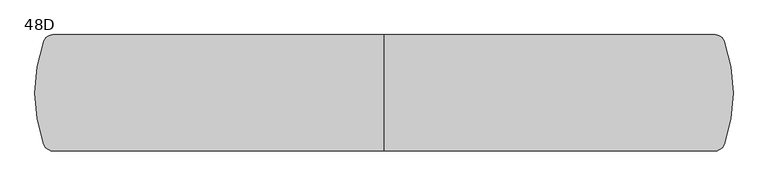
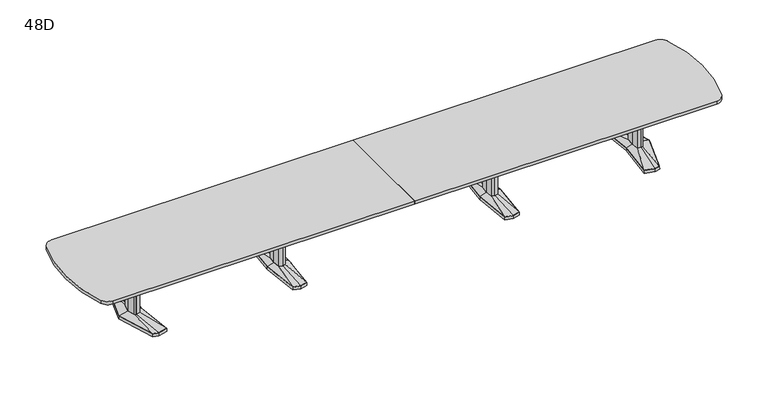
"""IFC4 building model written with IfcOpenShell, lengths in millimetres: furniture geometry, Coalesse_AM_Table_Conference_ETable2_SoftRadiused_24ft_AluminiumBase : 48D."""

from ifc_helpers import new_model, si_unit, point, frame, frame_2d, origin, place, context, project, spatial, polyline, circle_curve, trimmed, segment, composite_curve, outline, extrude, faceted_brep, source, transform, mapped, element, save
from ifc_brep_helpers import plane_surface, spline_surface, advanced_brep


def furniture_48d_ad6c0e78(model_context):
    return source(origin(), model_context, "Body", "SolidModel", [
        faceted_brep([(2852.8994335, 455.5848221, 38.1), (2743.3218777, 426.2263816, 38.1), (2784.4851217, 0.0, 38.1), (2743.3218777, -426.2263816, 38.1), (2852.8994335, -455.5848221, 38.1), (2909.0257896, -440.5478297, 38.1), (3046.3371769, 0.0, 38.1), (2909.0257896, 440.5478297, 38.1), (2852.8994254, 457.2283104, 3.175), (2910.2811972, 441.8549756, 3.175), (3048.0, 0.0, 3.175), (2910.2811972, -441.8549756, 3.175), (2852.8994254, -457.2283104, 3.175), (2741.6125, -427.4118891, 3.175), (2782.8902356, 0.0, 3.175), (2741.6125, 427.4118891, 3.175), (2856.488865, 428.3273875, 3.175), (2751.4405728, 402.1057253, 3.175), (2759.559268, 377.985069, 3.175), (2860.0782966, 401.0699529, 3.175), (2910.6379225, 387.524361, 3.175), (2909.8318561, 414.0360954, 3.175), (2856.488865, -428.3273875, 3.175), (2909.8318561, -414.0360954, 3.175), (2910.6379225, -387.524361, 3.175), (2860.0782966, -401.0699529, 3.175), (2759.559268, -377.985069, 3.175), (2751.4405728, -402.1057253, 3.175), (2983.0841121, 0.0, 3.175), (2950.8147111, 120.4193755, 3.175), (2902.1674722, 133.471665, 3.175), (2822.2868026, 119.4176561, 3.175), (2811.1555966, 0.0, 3.175), (2822.2868026, -119.4176561, 3.175), (2902.1674722, -133.471665, 3.175), (2950.8147111, -120.4193755, 3.175), (2856.488865, 428.3273875, 0.0), (2909.8318561, 414.0360954, 0.0), (2910.6379225, 387.524361, 0.0), (2860.0782966, 401.0699529, 0.0), (2759.559268, 377.985069, 0.0), (2751.4405728, 402.1057253, 0.0), (2856.488865, -428.3273875, 0.0), (2751.4405728, -402.1057253, 0.0), (2759.559268, -377.985069, 0.0), (2860.0782966, -401.0699529, 0.0), (2910.6379225, -387.524361, 0.0), (2909.8318561, -414.0360954, 0.0), (2983.0841121, 0.0, 0.0), (2950.8147111, -120.4193755, 0.0), (2902.1674722, -133.471665, 0.0), (2822.2868026, -119.4176561, 0.0), (2811.1555966, 0.0, 0.0), (2822.2868026, 119.4176561, 0.0), (2902.1674722, 133.471665, 0.0), (2950.8147111, 120.4193755, 0.0)], [[[0, 1, 2, 3, 4, 5, 6, 7]], [[8, 9, 10, 11, 12, 13, 14, 15], [16, 17, 18, 19, 20, 21], [22, 23, 24, 25, 26, 27], [28, 29, 30, 31, 32, 33, 34, 35]], [[7, 9, 8, 0]], [[6, 10, 9, 7]], [[5, 11, 10, 6]], [[4, 12, 11, 5]], [[3, 13, 12, 4]], [[2, 14, 13, 3]], [[1, 15, 14, 2]], [[0, 8, 15, 1]], [[36, 37, 38, 39, 40, 41]], [[42, 43, 44, 45, 46, 47]], [[48, 49, 50, 51, 52, 53, 54, 55]], [[36, 16, 21, 37]], [[37, 21, 20, 38]], [[38, 20, 19, 39]], [[39, 19, 18, 40]], [[40, 18, 17, 41]], [[41, 17, 16, 36]], [[42, 22, 27, 43]], [[43, 27, 26, 44]], [[44, 26, 25, 45]], [[45, 25, 24, 46]], [[46, 24, 23, 47]], [[47, 23, 22, 42]], [[48, 28, 35, 49]], [[49, 35, 34, 50]], [[50, 34, 33, 51]], [[51, 33, 32, 52]], [[52, 32, 31, 53]], [[53, 31, 30, 54]], [[54, 30, 29, 55]], [[55, 29, 28, 48]]]),
        faceted_brep([(2943.6398336, 0.0, 698.5), (2919.7046046, 89.3188359, 698.5), (2902.8512484, 93.8406728, 698.5), (2900.4514011, 94.4845635, 698.5), (2857.523896, 86.9320037, 698.5), (2849.4207556, 0.0, 698.5), (2857.523896, -86.9320037, 698.5), (2900.4514011, -94.4845635, 698.5), (2902.8512484, -93.8406728, 698.5), (2919.7046046, -89.3188359, 698.5), (2943.6398336, 0.0, 63.5), (2919.7046046, -89.3188359, 63.5), (2902.8512484, -93.8406728, 63.5), (2900.4514011, -94.4845635, 63.5), (2857.523896, -86.9320037, 63.5), (2849.4207556, 0.0, 63.5), (2857.523896, 86.9320037, 63.5), (2900.4514011, 94.4845635, 63.5), (2902.8512484, 93.8406728, 63.5), (2919.7046046, 89.3188359, 63.5)], [[[0, 1, 2, 3, 4, 5, 6, 7, 8, 9]], [[10, 11, 12, 13, 14, 15, 16, 17, 18, 19]], [[9, 11, 10, 0]], [[8, 12, 11, 9]], [[7, 13, 12, 8]], [[6, 14, 13, 7]], [[5, 15, 14, 6]], [[4, 16, 15, 5]], [[3, 17, 16, 4]], [[2, 18, 17, 3]], [[1, 19, 18, 2]], [[0, 10, 19, 1]]]),
        advanced_brep(
        [(2900.4514011, 94.4845635, 63.5), (2857.523896, 86.9320037, 63.5), (2849.4207556, 0.0, 63.5), (2857.523896, -86.9320037, 63.5), (2900.4514011, -94.4845635, 63.5), (2919.7046046, -89.3188359, 63.5), (2943.6398336, 0.0, 63.5), (2919.7046046, 89.3188359, 63.5), (2852.8994335, 455.5848221, 38.1), (2909.0257896, 440.5478297, 38.1), (3046.3371769, 0.0, 38.1), (2909.0257896, -440.5478297, 38.1), (2852.8994335, -455.5848221, 38.1), (2743.3218777, -426.2263816, 38.1), (2784.4851217, 0.0, 38.1), (2743.3218777, 426.2263816, 38.1)],
        [
            (0, 1),
            (1, 2),
            (2, 3),
            (3, 4),
            (4, 5),
            (5, 6),
            (6, 7),
            (7, 0),
            (8, 9),
            (9, 10),
            (10, 11),
            (11, 12),
            (12, 13),
            (13, 14),
            (14, 15),
            (15, 8),
            (8, 0),
            (7, 9),
            (6, 10),
            (5, 11),
            (4, 12),
            (3, 13),
            (2, 14),
            (1, 15),
        ],
        [
            plane_surface(frame((2893.5525491, 0.0, 63.5), z_axis=(0.0, 0.0, 1.0), x_axis=(-0.25884244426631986, -0.9659195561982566, 0.0))),
            plane_surface(frame((2855.1645625, 0.0, 38.1), z_axis=(0.0, 0.0, -1.0), x_axis=(-0.25884244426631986, -0.9659195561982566, 0.0))),
            spline_surface(1, 1, [[(2852.8994335, 455.5848221, 38.1), (2909.0257896, 440.5478297, 38.1)], [(2900.4514011, 94.4845635, 63.5), (2919.7046046, 89.3188359, 63.5)]], [2, 2], [2, 2], [0.0, 1.0], [0.0, 1.0]),
            spline_surface(1, 1, [[(2909.0257896, 440.5478297, 38.1), (3046.3371769, 0.0, 38.1)], [(2919.7046046, 89.3188359, 63.5), (2943.6398336, 0.0, 63.5)]], [2, 2], [2, 2], [0.0, 1.0], [0.0, 1.0]),
            spline_surface(1, 1, [[(3046.3371769, 0.0, 38.1), (2909.0257896, -440.5478297, 38.1)], [(2943.6398336, 0.0, 63.5), (2919.7046046, -89.3188359, 63.5)]], [2, 2], [2, 2], [0.0, 1.0], [0.0, 1.0]),
            spline_surface(1, 1, [[(2909.0257896, -440.5478297, 38.1), (2852.8994335, -455.5848221, 38.1)], [(2919.7046046, -89.3188359, 63.5), (2900.4514011, -94.4845635, 63.5)]], [2, 2], [2, 2], [0.0, 1.0], [0.0, 1.0]),
            spline_surface(1, 1, [[(2852.8994335, -455.5848221, 38.1), (2743.3218777, -426.2263816, 38.1)], [(2900.4514011, -94.4845635, 63.5), (2857.523896, -86.9320037, 63.5)]], [2, 2], [2, 2], [0.0, 1.0], [0.0, 1.0]),
            spline_surface(1, 1, [[(2743.3218777, -426.2263816, 38.1), (2784.4851217, 0.0, 38.1)], [(2857.523896, -86.9320037, 63.5), (2849.4207556, 0.0, 63.5)]], [2, 2], [2, 2], [0.0, 1.0], [0.0, 1.0]),
            spline_surface(1, 1, [[(2784.4851217, 0.0, 38.1), (2743.3218777, 426.2263816, 38.1)], [(2849.4207556, 0.0, 63.5), (2857.523896, 86.9320037, 63.5)]], [2, 2], [2, 2], [0.0, 1.0], [0.0, 1.0]),
            spline_surface(1, 1, [[(2743.3218777, 426.2263816, 38.1), (2852.8994335, 455.5848221, 38.1)], [(2857.523896, 86.9320037, 63.5), (2900.4514011, 94.4845635, 63.5)]], [2, 2], [2, 2], [0.0, 1.0], [0.0, 1.0]),
        ],
        [
            (0, [[1, 2, 3, 4, 5, 6, 7, 8]]),
            (1, [[9, 10, 11, 12, 13, 14, 15, 16]]),
            (2, [[17, -8, 18, -9]]),
            (3, [[-18, -7, 19, -10]]),
            (4, [[-19, -6, 20, -11]]),
            (5, [[-20, -5, 21, -12]]),
            (6, [[-21, -4, 22, -13]]),
            (7, [[-22, -3, 23, -14]]),
            (8, [[-23, -2, 24, -15]]),
            (9, [[-24, -1, -17, -16]]),
        ],
    ),
        faceted_brep([(-2852.8994335, 455.5848221, 38.1), (-2909.0257896, 440.5478297, 38.1), (-3046.3371769, 0.0, 38.1), (-2909.0257896, -440.5478297, 38.1), (-2852.8994335, -455.5848221, 38.1), (-2743.3218777, -426.2263816, 38.1), (-2784.4851217, 0.0, 38.1), (-2743.3218777, 426.2263816, 38.1), (-2852.8994254, 457.2283104, 3.175), (-2741.6125, 427.4118891, 3.175), (-2782.8902356, 0.0, 3.175), (-2741.6125, -427.4118891, 3.175), (-2852.8994254, -457.2283104, 3.175), (-2910.2811972, -441.8549756, 3.175), (-3048.0, 0.0, 3.175), (-2910.2811972, 441.8549756, 3.175), (-2856.488865, 428.3273875, 3.175), (-2909.8318561, 414.0360954, 3.175), (-2910.6379225, 387.524361, 3.175), (-2860.0782966, 401.0699529, 3.175), (-2759.559268, 377.985069, 3.175), (-2751.4405728, 402.1057253, 3.175), (-2856.488865, -428.3273875, 3.175), (-2751.4405728, -402.1057253, 3.175), (-2759.559268, -377.985069, 3.175), (-2860.0782966, -401.0699529, 3.175), (-2910.6379225, -387.524361, 3.175), (-2909.8318561, -414.0360954, 3.175), (-2983.0841121, 0.0, 3.175), (-2950.8147111, -120.4193755, 3.175), (-2902.1674722, -133.471665, 3.175), (-2822.2868026, -119.4176561, 3.175), (-2811.1555966, 0.0, 3.175), (-2822.2868026, 119.4176561, 3.175), (-2902.1674722, 133.471665, 3.175), (-2950.8147111, 120.4193755, 3.175), (-2856.488865, 428.3273875, 0.0), (-2751.4405728, 402.1057253, 0.0), (-2759.559268, 377.985069, 0.0), (-2860.0782966, 401.0699529, 0.0), (-2910.6379225, 387.524361, 0.0), (-2909.8318561, 414.0360954, 0.0), (-2856.488865, -428.3273875, 0.0), (-2909.8318561, -414.0360954, 0.0), (-2910.6379225, -387.524361, 0.0), (-2860.0782966, -401.0699529, 0.0), (-2759.559268, -377.985069, 0.0), (-2751.4405728, -402.1057253, 0.0), (-2983.0841121, 0.0, 0.0), (-2950.8147111, 120.4193755, 0.0), (-2902.1674722, 133.471665, 0.0), (-2822.2868026, 119.4176561, 0.0), (-2811.1555966, 0.0, 0.0), (-2822.2868026, -119.4176561, 0.0), (-2902.1674722, -133.471665, 0.0), (-2950.8147111, -120.4193755, 0.0)], [[[0, 1, 2, 3, 4, 5, 6, 7]], [[8, 9, 10, 11, 12, 13, 14, 15], [16, 17, 18, 19, 20, 21], [22, 23, 24, 25, 26, 27], [28, 29, 30, 31, 32, 33, 34, 35]], [[1, 0, 8, 15]], [[2, 1, 15, 14]], [[3, 2, 14, 13]], [[4, 3, 13, 12]], [[5, 4, 12, 11]], [[6, 5, 11, 10]], [[7, 6, 10, 9]], [[0, 7, 9, 8]], [[36, 37, 38, 39, 40, 41]], [[42, 43, 44, 45, 46, 47]], [[48, 49, 50, 51, 52, 53, 54, 55]], [[36, 41, 17, 16]], [[41, 40, 18, 17]], [[40, 39, 19, 18]], [[39, 38, 20, 19]], [[38, 37, 21, 20]], [[37, 36, 16, 21]], [[42, 47, 23, 22]], [[47, 46, 24, 23]], [[46, 45, 25, 24]], [[45, 44, 26, 25]], [[44, 43, 27, 26]], [[43, 42, 22, 27]], [[48, 55, 29, 28]], [[55, 54, 30, 29]], [[54, 53, 31, 30]], [[53, 52, 32, 31]], [[52, 51, 33, 32]], [[51, 50, 34, 33]], [[50, 49, 35, 34]], [[49, 48, 28, 35]]]),
        faceted_brep([(-2943.6398336, 0.0, 698.5), (-2919.7046046, -89.3188359, 698.5), (-2902.8512484, -93.8406728, 698.5), (-2900.4514011, -94.4845635, 698.5), (-2857.523896, -86.9320037, 698.5), (-2849.4207556, 0.0, 698.5), (-2857.523896, 86.9320037, 698.5), (-2900.4514011, 94.4845635, 698.5), (-2902.8512484, 93.8406728, 698.5), (-2919.7046046, 89.3188359, 698.5), (-2943.6398336, 0.0, 63.5), (-2919.7046046, 89.3188359, 63.5), (-2902.8512484, 93.8406728, 63.5), (-2900.4514011, 94.4845635, 63.5), (-2857.523896, 86.9320037, 63.5), (-2849.4207556, 0.0, 63.5), (-2857.523896, -86.9320037, 63.5), (-2900.4514011, -94.4845635, 63.5), (-2902.8512484, -93.8406728, 63.5), (-2919.7046046, -89.3188359, 63.5)], [[[0, 1, 2, 3, 4, 5, 6, 7, 8, 9]], [[10, 11, 12, 13, 14, 15, 16, 17, 18, 19]], [[1, 0, 10, 19]], [[2, 1, 19, 18]], [[3, 2, 18, 17]], [[4, 3, 17, 16]], [[5, 4, 16, 15]], [[6, 5, 15, 14]], [[7, 6, 14, 13]], [[8, 7, 13, 12]], [[9, 8, 12, 11]], [[0, 9, 11, 10]]]),
        advanced_brep(
        [(-2900.4514011, 94.4845635, 63.5), (-2919.7046046, 89.3188359, 63.5), (-2943.6398336, 0.0, 63.5), (-2919.7046046, -89.3188359, 63.5), (-2900.4514011, -94.4845635, 63.5), (-2857.523896, -86.9320037, 63.5), (-2849.4207556, 0.0, 63.5), (-2857.523896, 86.9320037, 63.5), (-2852.8994335, 455.5848221, 38.1), (-2743.3218777, 426.2263816, 38.1), (-2784.4851217, 0.0, 38.1), (-2743.3218777, -426.2263816, 38.1), (-2852.8994335, -455.5848221, 38.1), (-2909.0257896, -440.5478297, 38.1), (-3046.3371769, 0.0, 38.1), (-2909.0257896, 440.5478297, 38.1)],
        [
            (0, 1),
            (1, 2),
            (2, 3),
            (3, 4),
            (4, 5),
            (5, 6),
            (6, 7),
            (7, 0),
            (8, 9),
            (9, 10),
            (10, 11),
            (11, 12),
            (12, 13),
            (13, 14),
            (14, 15),
            (15, 8),
            (15, 1),
            (0, 8),
            (14, 2),
            (13, 3),
            (12, 4),
            (11, 5),
            (10, 6),
            (9, 7),
        ],
        [
            plane_surface(frame((-2893.5525491, 0.0, 63.5), z_axis=(0.0, 0.0, 1.0), x_axis=(0.25884244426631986, -0.9659195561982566, 0.0))),
            plane_surface(frame((-2855.1645625, 0.0, 38.1), z_axis=(0.0, 0.0, -1.0), x_axis=(0.25884244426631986, -0.9659195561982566, 0.0))),
            spline_surface(1, 1, [[(-2852.8994335, 455.5848221, 38.1), (-2900.4514011, 94.4845635, 63.5)], [(-2909.0257896, 440.5478297, 38.1), (-2919.7046046, 89.3188359, 63.5)]], [2, 2], [2, 2], [0.0, 1.0], [0.0, 1.0]),
            spline_surface(1, 1, [[(-2909.0257896, 440.5478297, 38.1), (-2919.7046046, 89.3188359, 63.5)], [(-3046.3371769, 0.0, 38.1), (-2943.6398336, 0.0, 63.5)]], [2, 2], [2, 2], [0.0, 1.0], [0.0, 1.0]),
            spline_surface(1, 1, [[(-3046.3371769, 0.0, 38.1), (-2943.6398336, 0.0, 63.5)], [(-2909.0257896, -440.5478297, 38.1), (-2919.7046046, -89.3188359, 63.5)]], [2, 2], [2, 2], [0.0, 1.0], [0.0, 1.0]),
            spline_surface(1, 1, [[(-2909.0257896, -440.5478297, 38.1), (-2919.7046046, -89.3188359, 63.5)], [(-2852.8994335, -455.5848221, 38.1), (-2900.4514011, -94.4845635, 63.5)]], [2, 2], [2, 2], [0.0, 1.0], [0.0, 1.0]),
            spline_surface(1, 1, [[(-2852.8994335, -455.5848221, 38.1), (-2900.4514011, -94.4845635, 63.5)], [(-2743.3218777, -426.2263816, 38.1), (-2857.523896, -86.9320037, 63.5)]], [2, 2], [2, 2], [0.0, 1.0], [0.0, 1.0]),
            spline_surface(1, 1, [[(-2743.3218777, -426.2263816, 38.1), (-2857.523896, -86.9320037, 63.5)], [(-2784.4851217, 0.0, 38.1), (-2849.4207556, 0.0, 63.5)]], [2, 2], [2, 2], [0.0, 1.0], [0.0, 1.0]),
            spline_surface(1, 1, [[(-2784.4851217, 0.0, 38.1), (-2849.4207556, 0.0, 63.5)], [(-2743.3218777, 426.2263816, 38.1), (-2857.523896, 86.9320037, 63.5)]], [2, 2], [2, 2], [0.0, 1.0], [0.0, 1.0]),
            spline_surface(1, 1, [[(-2743.3218777, 426.2263816, 38.1), (-2857.523896, 86.9320037, 63.5)], [(-2852.8994335, 455.5848221, 38.1), (-2900.4514011, 94.4845635, 63.5)]], [2, 2], [2, 2], [0.0, 1.0], [0.0, 1.0]),
        ],
        [
            (0, [[1, 2, 3, 4, 5, 6, 7, 8]]),
            (1, [[9, 10, 11, 12, 13, 14, 15, 16]]),
            (2, [[-16, 17, -1, 18]]),
            (3, [[-15, 19, -2, -17]]),
            (4, [[-14, 20, -3, -19]]),
            (5, [[-13, 21, -4, -20]]),
            (6, [[-12, 22, -5, -21]]),
            (7, [[-11, 23, -6, -22]]),
            (8, [[-10, 24, -7, -23]]),
            (9, [[-9, -18, -8, -24]]),
        ],
    ),
        faceted_brep([(1137.9666209, -433.8053819, 38.1), (1219.2, -455.556576, 38.1), (1300.4333791, -433.8053819, 38.1), (1338.2564774, 0.0, 38.1), (1300.4333791, 433.8053819, 38.1), (1219.2, 455.556576, 38.1), (1137.9666209, 433.8053819, 38.1), (1100.1435226, 0.0, 38.1), (1136.4817205, -435.0512063, 3.175), (1098.55, 0.0, 3.175), (1136.4817205, 435.0512063, 3.175), (1219.2, 457.2, 3.175), (1301.9182795, 435.0512063, 3.175), (1339.85, 0.0, 3.175), (1301.9182795, -435.0512063, 3.175), (1219.2, -457.2, 3.175), (1219.2, 429.2617927, 3.175), (1141.2323194, 408.3850278, 3.175), (1144.4980179, 382.9646737, 3.175), (1219.2, 402.9670094, 3.175), (1293.9019821, 382.9646737, 3.175), (1297.1676806, 408.3850278, 3.175), (1219.2, -429.2617927, 3.175), (1297.1676806, -408.3850278, 3.175), (1293.9019821, -382.9646737, 3.175), (1219.2, -402.9670094, 3.175), (1144.4980179, -382.9646737, 3.175), (1141.2323194, -408.3850278, 3.175), (1147.3425738, 114.6326257, 3.175), (1136.6573924, 0.0, 3.175), (1147.3425738, -114.6326257, 3.175), (1219.2, -133.8761372, 3.175), (1291.0574262, -114.6326257, 3.175), (1301.7426076, 0.0, 3.175), (1291.0574262, 114.6326257, 3.175), (1219.2, 133.8761372, 3.175), (1219.2, 429.2617927, 0.0), (1297.1676806, 408.3850278, 0.0), (1293.9019821, 382.9646737, 0.0), (1219.2, 402.9670094, 0.0), (1144.4980179, 382.9646737, 0.0), (1141.2323194, 408.3850278, 0.0), (1219.2, -429.2617927, 0.0), (1141.2323194, -408.3850278, 0.0), (1144.4980179, -382.9646737, 0.0), (1219.2, -402.9670094, 0.0), (1293.9019821, -382.9646737, 0.0), (1297.1676806, -408.3850278, 0.0), (1147.3425738, 114.6326257, 0.0), (1219.2, 133.8761372, 0.0), (1291.0574262, 114.6326257, 0.0), (1301.7426076, 0.0, 0.0), (1291.0574262, -114.6326257, 0.0), (1219.2, -133.8761372, 0.0), (1147.3425738, -114.6326257, 0.0), (1136.6573924, 0.0, 0.0)], [[[0, 1, 2, 3, 4, 5, 6, 7]], [[8, 9, 10, 11, 12, 13, 14, 15], [16, 17, 18, 19, 20, 21], [22, 23, 24, 25, 26, 27], [28, 29, 30, 31, 32, 33, 34, 35]], [[1, 0, 8, 15]], [[2, 1, 15, 14]], [[3, 2, 14, 13]], [[4, 3, 13, 12]], [[5, 4, 12, 11]], [[6, 5, 11, 10]], [[7, 6, 10, 9]], [[0, 7, 9, 8]], [[36, 37, 38, 39, 40, 41]], [[42, 43, 44, 45, 46, 47]], [[48, 49, 50, 51, 52, 53, 54, 55]], [[36, 41, 17, 16]], [[41, 40, 18, 17]], [[40, 39, 19, 18]], [[39, 38, 20, 19]], [[38, 37, 21, 20]], [[37, 36, 16, 21]], [[42, 47, 23, 22]], [[47, 46, 24, 23]], [[46, 45, 25, 24]], [[45, 44, 26, 25]], [[44, 43, 27, 26]], [[43, 42, 22, 27]], [[48, 55, 29, 28]], [[55, 54, 30, 29]], [[54, 53, 31, 30]], [[53, 52, 32, 31]], [[52, 51, 33, 32]], [[51, 50, 34, 33]], [[50, 49, 35, 34]], [[49, 48, 28, 35]]]),
        faceted_brep([(1182.8167166, 84.6900825, 698.5), (1174.9225513, 0.0, 698.5), (1182.8167166, -84.6900825, 698.5), (1219.2, -94.4335728, 698.5), (1255.5832834, -84.6900825, 698.5), (1263.4774487, 0.0, 698.5), (1255.5832834, 84.6900825, 698.5), (1219.2, 94.4335728, 698.5), (1182.8167166, 84.6900825, 63.5), (1219.2, 94.4335728, 63.5), (1255.5832834, 84.6900825, 63.5), (1263.4774487, 0.0, 63.5), (1255.5832834, -84.6900825, 63.5), (1219.2, -94.4335728, 63.5), (1182.8167166, -84.6900825, 63.5), (1174.9225513, 0.0, 63.5)], [[[0, 1, 2, 3, 4, 5, 6, 7]], [[8, 9, 10, 11, 12, 13, 14, 15]], [[1, 0, 8, 15]], [[2, 1, 15, 14]], [[3, 2, 14, 13]], [[4, 3, 13, 12]], [[5, 4, 12, 11]], [[6, 5, 11, 10]], [[7, 6, 10, 9]], [[0, 7, 9, 8]]]),
        advanced_brep(
        [(1182.8167166, 84.6900825, 63.5), (1174.9225513, 0.0, 63.5), (1182.8167166, -84.6900825, 63.5), (1219.2, -94.4335728, 63.5), (1255.5832834, -84.6900825, 63.5), (1263.4774487, 0.0, 63.5), (1255.5832834, 84.6900825, 63.5), (1219.2, 94.4335728, 63.5), (1137.9666209, 433.8053819, 38.1), (1219.2, 455.556576, 38.1), (1300.4333791, 433.8053819, 38.1), (1338.2564774, 0.0, 38.1), (1300.4333791, -433.8053819, 38.1), (1219.2, -455.556576, 38.1), (1137.9666209, -433.8053819, 38.1), (1100.1435226, 0.0, 38.1)],
        [
            (0, 1),
            (1, 2),
            (2, 3),
            (3, 4),
            (4, 5),
            (5, 6),
            (6, 7),
            (7, 0),
            (8, 9),
            (9, 10),
            (10, 11),
            (11, 12),
            (12, 13),
            (13, 14),
            (14, 15),
            (15, 8),
            (15, 1),
            (0, 8),
            (14, 2),
            (13, 3),
            (12, 4),
            (11, 5),
            (10, 6),
            (9, 7),
        ],
        [
            plane_surface(frame((1219.2, 0.0, 63.5), z_axis=(0.0, 0.0, 1.0000000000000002), x_axis=(-0.9659615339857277, -0.25868574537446, 0.0))),
            plane_surface(frame((1219.2, 0.0, 38.1), z_axis=(0.0, 0.0, -1.0000000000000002), x_axis=(-0.9659615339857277, -0.25868574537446, 0.0))),
            spline_surface(1, 1, [[(1137.9666209, 433.8053819, 38.1), (1182.8167166, 84.6900825, 63.5)], [(1100.1435226, 0.0, 38.1), (1174.9225513, 0.0, 63.5)]], [2, 2], [2, 2], [0.0, 1.0], [0.0, 1.0]),
            spline_surface(1, 1, [[(1100.1435226, 0.0, 38.1), (1174.9225513, 0.0, 63.5)], [(1137.9666209, -433.8053819, 38.1), (1182.8167166, -84.6900825, 63.5)]], [2, 2], [2, 2], [0.0, 1.0], [0.0, 1.0]),
            spline_surface(1, 1, [[(1137.9666209, -433.8053819, 38.1), (1182.8167166, -84.6900825, 63.5)], [(1219.2, -455.556576, 38.1), (1219.2, -94.4335728, 63.5)]], [2, 2], [2, 2], [0.0, 1.0], [0.0, 1.0]),
            spline_surface(1, 1, [[(1219.2, -455.556576, 38.1), (1219.2, -94.4335728, 63.5)], [(1300.4333791, -433.8053819, 38.1), (1255.5832834, -84.6900825, 63.5)]], [2, 2], [2, 2], [0.0, 1.0], [0.0, 1.0]),
            spline_surface(1, 1, [[(1300.4333791, -433.8053819, 38.1), (1255.5832834, -84.6900825, 63.5)], [(1338.2564774, 0.0, 38.1), (1263.4774487, 0.0, 63.5)]], [2, 2], [2, 2], [0.0, 1.0], [0.0, 1.0]),
            spline_surface(1, 1, [[(1338.2564774, 0.0, 38.1), (1263.4774487, 0.0, 63.5)], [(1300.4333791, 433.8053819, 38.1), (1255.5832834, 84.6900825, 63.5)]], [2, 2], [2, 2], [0.0, 1.0], [0.0, 1.0]),
            spline_surface(1, 1, [[(1300.4333791, 433.8053819, 38.1), (1255.5832834, 84.6900825, 63.5)], [(1219.2, 455.556576, 38.1), (1219.2, 94.4335728, 63.5)]], [2, 2], [2, 2], [0.0, 1.0], [0.0, 1.0]),
            spline_surface(1, 1, [[(1219.2, 455.556576, 38.1), (1219.2, 94.4335728, 63.5)], [(1137.9666209, 433.8053819, 38.1), (1182.8167166, 84.6900825, 63.5)]], [2, 2], [2, 2], [0.0, 1.0], [0.0, 1.0]),
        ],
        [
            (0, [[1, 2, 3, 4, 5, 6, 7, 8]]),
            (1, [[9, 10, 11, 12, 13, 14, 15, 16]]),
            (2, [[-16, 17, -1, 18]]),
            (3, [[-15, 19, -2, -17]]),
            (4, [[-14, 20, -3, -19]]),
            (5, [[-13, 21, -4, -20]]),
            (6, [[-12, 22, -5, -21]]),
            (7, [[-11, 23, -6, -22]]),
            (8, [[-10, 24, -7, -23]]),
            (9, [[-9, -18, -8, -24]]),
        ],
    ),
        faceted_brep([(-1300.4333791, -433.8053819, 38.1), (-1219.2, -455.556576, 38.1), (-1137.9666209, -433.8053819, 38.1), (-1100.1435226, 0.0, 38.1), (-1137.9666209, 433.8053819, 38.1), (-1219.2, 455.556576, 38.1), (-1300.4333791, 433.8053819, 38.1), (-1338.2564774, 0.0, 38.1), (-1301.9182795, -435.0512063, 3.175), (-1339.85, 0.0, 3.175), (-1301.9182795, 435.0512063, 3.175), (-1219.2, 457.2, 3.175), (-1136.4817205, 435.0512063, 3.175), (-1098.55, 0.0, 3.175), (-1136.4817205, -435.0512063, 3.175), (-1219.2, -457.2, 3.175), (-1219.2, 429.2617927, 3.175), (-1297.1676806, 408.3850278, 3.175), (-1293.9019821, 382.9646737, 3.175), (-1219.2, 402.9670094, 3.175), (-1144.4980179, 382.9646737, 3.175), (-1141.2323194, 408.3850278, 3.175), (-1219.2, -429.2617927, 3.175), (-1141.2323194, -408.3850278, 3.175), (-1144.4980179, -382.9646737, 3.175), (-1219.2, -402.9670094, 3.175), (-1293.9019821, -382.9646737, 3.175), (-1297.1676806, -408.3850278, 3.175), (-1291.0574262, 114.6326257, 3.175), (-1301.7426076, 0.0, 3.175), (-1291.0574262, -114.6326257, 3.175), (-1219.2, -133.8761372, 3.175), (-1147.3425738, -114.6326257, 3.175), (-1136.6573924, 0.0, 3.175), (-1147.3425738, 114.6326257, 3.175), (-1219.2, 133.8761372, 3.175), (-1219.2, 429.2617927, 0.0), (-1141.2323194, 408.3850278, 0.0), (-1144.4980179, 382.9646737, 0.0), (-1219.2, 402.9670094, 0.0), (-1293.9019821, 382.9646737, 0.0), (-1297.1676806, 408.3850278, 0.0), (-1219.2, -429.2617927, 0.0), (-1297.1676806, -408.3850278, 0.0), (-1293.9019821, -382.9646737, 0.0), (-1219.2, -402.9670094, 0.0), (-1144.4980179, -382.9646737, 0.0), (-1141.2323194, -408.3850278, 0.0), (-1291.0574262, 114.6326257, 0.0), (-1219.2, 133.8761372, 0.0), (-1147.3425738, 114.6326257, 0.0), (-1136.6573924, 0.0, 0.0), (-1147.3425738, -114.6326257, 0.0), (-1219.2, -133.8761372, 0.0), (-1291.0574262, -114.6326257, 0.0), (-1301.7426076, 0.0, 0.0)], [[[0, 1, 2, 3, 4, 5, 6, 7]], [[8, 9, 10, 11, 12, 13, 14, 15], [16, 17, 18, 19, 20, 21], [22, 23, 24, 25, 26, 27], [28, 29, 30, 31, 32, 33, 34, 35]], [[1, 0, 8, 15]], [[2, 1, 15, 14]], [[3, 2, 14, 13]], [[4, 3, 13, 12]], [[5, 4, 12, 11]], [[6, 5, 11, 10]], [[7, 6, 10, 9]], [[0, 7, 9, 8]], [[36, 37, 38, 39, 40, 41]], [[42, 43, 44, 45, 46, 47]], [[48, 49, 50, 51, 52, 53, 54, 55]], [[36, 41, 17, 16]], [[41, 40, 18, 17]], [[40, 39, 19, 18]], [[39, 38, 20, 19]], [[38, 37, 21, 20]], [[37, 36, 16, 21]], [[42, 47, 23, 22]], [[47, 46, 24, 23]], [[46, 45, 25, 24]], [[45, 44, 26, 25]], [[44, 43, 27, 26]], [[43, 42, 22, 27]], [[48, 55, 29, 28]], [[55, 54, 30, 29]], [[54, 53, 31, 30]], [[53, 52, 32, 31]], [[52, 51, 33, 32]], [[51, 50, 34, 33]], [[50, 49, 35, 34]], [[49, 48, 28, 35]]]),
        faceted_brep([(-1255.5832834, 84.6900825, 698.5), (-1263.4774487, 0.0, 698.5), (-1255.5832834, -84.6900825, 698.5), (-1219.2, -94.4335728, 698.5), (-1182.8167166, -84.6900825, 698.5), (-1174.9225513, 0.0, 698.5), (-1182.8167166, 84.6900825, 698.5), (-1219.2, 94.4335728, 698.5), (-1255.5832834, 84.6900825, 63.5), (-1219.2, 94.4335728, 63.5), (-1182.8167166, 84.6900825, 63.5), (-1174.9225513, 0.0, 63.5), (-1182.8167166, -84.6900825, 63.5), (-1219.2, -94.4335728, 63.5), (-1255.5832834, -84.6900825, 63.5), (-1263.4774487, 0.0, 63.5)], [[[0, 1, 2, 3, 4, 5, 6, 7]], [[8, 9, 10, 11, 12, 13, 14, 15]], [[1, 0, 8, 15]], [[2, 1, 15, 14]], [[3, 2, 14, 13]], [[4, 3, 13, 12]], [[5, 4, 12, 11]], [[6, 5, 11, 10]], [[7, 6, 10, 9]], [[0, 7, 9, 8]]]),
        advanced_brep(
        [(-1255.5832834, 84.6900825, 63.5), (-1263.4774487, 0.0, 63.5), (-1255.5832834, -84.6900825, 63.5), (-1219.2, -94.4335728, 63.5), (-1182.8167166, -84.6900825, 63.5), (-1174.9225513, 0.0, 63.5), (-1182.8167166, 84.6900825, 63.5), (-1219.2, 94.4335728, 63.5), (-1300.4333791, 433.8053819, 38.1), (-1219.2, 455.556576, 38.1), (-1137.9666209, 433.8053819, 38.1), (-1100.1435226, 0.0, 38.1), (-1137.9666209, -433.8053819, 38.1), (-1219.2, -455.556576, 38.1), (-1300.4333791, -433.8053819, 38.1), (-1338.2564774, 0.0, 38.1)],
        [
            (0, 1),
            (1, 2),
            (2, 3),
            (3, 4),
            (4, 5),
            (5, 6),
            (6, 7),
            (7, 0),
            (8, 9),
            (9, 10),
            (10, 11),
            (11, 12),
            (12, 13),
            (13, 14),
            (14, 15),
            (15, 8),
            (15, 1),
            (0, 8),
            (14, 2),
            (13, 3),
            (12, 4),
            (11, 5),
            (10, 6),
            (9, 7),
        ],
        [
            plane_surface(frame((-1219.2, 0.0, 63.5), z_axis=(0.0, 0.0, 1.0000000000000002), x_axis=(-0.9659615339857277, -0.25868574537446, 0.0))),
            plane_surface(frame((-1219.2, 0.0, 38.1), z_axis=(0.0, 0.0, -1.0000000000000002), x_axis=(-0.9659615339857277, -0.25868574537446, 0.0))),
            spline_surface(1, 1, [[(-1300.4333791, 433.8053819, 38.1), (-1255.5832834, 84.6900825, 63.5)], [(-1338.2564774, 0.0, 38.1), (-1263.4774487, 0.0, 63.5)]], [2, 2], [2, 2], [0.0, 1.0], [0.0, 1.0]),
            spline_surface(1, 1, [[(-1338.2564774, 0.0, 38.1), (-1263.4774487, 0.0, 63.5)], [(-1300.4333791, -433.8053819, 38.1), (-1255.5832834, -84.6900825, 63.5)]], [2, 2], [2, 2], [0.0, 1.0], [0.0, 1.0]),
            spline_surface(1, 1, [[(-1300.4333791, -433.8053819, 38.1), (-1255.5832834, -84.6900825, 63.5)], [(-1219.2, -455.556576, 38.1), (-1219.2, -94.4335728, 63.5)]], [2, 2], [2, 2], [0.0, 1.0], [0.0, 1.0]),
            spline_surface(1, 1, [[(-1219.2, -455.556576, 38.1), (-1219.2, -94.4335728, 63.5)], [(-1137.9666209, -433.8053819, 38.1), (-1182.8167166, -84.6900825, 63.5)]], [2, 2], [2, 2], [0.0, 1.0], [0.0, 1.0]),
            spline_surface(1, 1, [[(-1137.9666209, -433.8053819, 38.1), (-1182.8167166, -84.6900825, 63.5)], [(-1100.1435226, 0.0, 38.1), (-1174.9225513, 0.0, 63.5)]], [2, 2], [2, 2], [0.0, 1.0], [0.0, 1.0]),
            spline_surface(1, 1, [[(-1100.1435226, 0.0, 38.1), (-1174.9225513, 0.0, 63.5)], [(-1137.9666209, 433.8053819, 38.1), (-1182.8167166, 84.6900825, 63.5)]], [2, 2], [2, 2], [0.0, 1.0], [0.0, 1.0]),
            spline_surface(1, 1, [[(-1137.9666209, 433.8053819, 38.1), (-1182.8167166, 84.6900825, 63.5)], [(-1219.2, 455.556576, 38.1), (-1219.2, 94.4335728, 63.5)]], [2, 2], [2, 2], [0.0, 1.0], [0.0, 1.0]),
            spline_surface(1, 1, [[(-1219.2, 455.556576, 38.1), (-1219.2, 94.4335728, 63.5)], [(-1300.4333791, 433.8053819, 38.1), (-1255.5832834, 84.6900825, 63.5)]], [2, 2], [2, 2], [0.0, 1.0], [0.0, 1.0]),
        ],
        [
            (0, [[1, 2, 3, 4, 5, 6, 7, 8]]),
            (1, [[9, 10, 11, 12, 13, 14, 15, 16]]),
            (2, [[-16, 17, -1, 18]]),
            (3, [[-15, 19, -2, -17]]),
            (4, [[-14, 20, -3, -19]]),
            (5, [[-13, 21, -4, -20]]),
            (6, [[-12, 22, -5, -21]]),
            (7, [[-11, 23, -6, -22]]),
            (8, [[-10, 24, -7, -23]]),
            (9, [[-9, -18, -8, -24]]),
        ],
    ),
        extrude(outline(polyline([(96.8375, 698.5), (103.1875, 698.5), (103.1875, 476.25), (-103.1875, 476.25), (-103.1875, 698.5), (-96.8375, 698.5), (-96.8375, 482.6), (96.8375, 482.6), (96.8375, 698.5)])), frame((1263.4774487, 0.0, 0.0), z_axis=(1.0, 0.0, 0.0), x_axis=(0.0, 1.0, 0.0)), (0.0, 0.0, 1.0), 1586.0850513),
        extrude(outline(polyline([(96.8375, 698.5), (103.1875, 698.5), (103.1875, 476.25), (-103.1875, 476.25), (-103.1875, 698.5), (-96.8375, 698.5), (-96.8375, 482.6), (96.8375, 482.6), (96.8375, 698.5)])), frame((-1174.9225513, 0.0, 0.0), z_axis=(1.0, 0.0, 0.0), x_axis=(0.0, 1.0, 0.0)), (0.0, 0.0, 1.0), 2349.8451026),
        extrude(outline(composite_curve([segment(polyline([(0.0, 44.2739767), (0.0, 609.6), (3468.4557965, 609.6)]), True, "CONTINUOUS"), segment(trimmed(circle_curve(frame_2d((3468.4557965, 508.0)), 101.6), [point((3468.4557965, 609.6))], [point((3564.2453259, 541.8662966))], False, "CARTESIAN"), True, "CONTINUOUS"), segment(polyline([(3564.2453259, 541.8662966), (3564.9956256, 539.7441026)]), True, "CONTINUOUS"), segment(trimmed(circle_curve(frame_2d((2038.35, 0.0)), 1619.25), [point((3564.9956256, 539.7441026))], [point((3564.9956256, -539.7441026))], False, "CARTESIAN"), True, "CONTINUOUS"), segment(polyline([(3564.9956256, -539.7441026), (3564.2453259, -541.8662966)]), True, "CONTINUOUS"), segment(trimmed(circle_curve(frame_2d((3468.4557965, -508.0)), 101.6), [point((3564.2453259, -541.8662966))], [point((3468.4557965, -609.6))], False, "CARTESIAN"), True, "CONTINUOUS"), segment(polyline([(3468.4557965, -609.6), (0.0, -609.6), (0.0, 44.2739767)]), True, "CONTINUOUS")], self_intersect=False)), frame((0.0, 0.0, 698.5), z_axis=(0.0, 0.0, 1.0), x_axis=(1.0, 0.0, 0.0)), (0.0, 0.0, 1.0), 38.1),
        extrude(outline(composite_curve([segment(polyline([(0.0, 44.2739767), (0.0, -609.6), (-3468.4557965, -609.6)]), True, "CONTINUOUS"), segment(trimmed(circle_curve(frame_2d((-3468.4557965, -508.0)), 101.6), [point((-3468.4557965, -609.6))], [point((-3564.2453259, -541.8662966))], False, "CARTESIAN"), True, "CONTINUOUS"), segment(polyline([(-3564.2453259, -541.8662966), (-3564.9956256, -539.7441026)]), True, "CONTINUOUS"), segment(trimmed(circle_curve(frame_2d((-2038.35, 0.0)), 1619.25), [point((-3564.9956256, -539.7441026))], [point((-3564.9956256, 539.7441026))], False, "CARTESIAN"), True, "CONTINUOUS"), segment(polyline([(-3564.9956256, 539.7441026), (-3564.2453259, 541.8662966)]), True, "CONTINUOUS"), segment(trimmed(circle_curve(frame_2d((-3468.4557965, 508.0)), 101.6), [point((-3564.2453259, 541.8662966))], [point((-3468.4557965, 609.6))], False, "CARTESIAN"), True, "CONTINUOUS"), segment(polyline([(-3468.4557965, 609.6), (0.0, 609.6), (0.0, 44.2739767)]), True, "CONTINUOUS")], self_intersect=False)), frame((0.0, 0.0, 698.5), z_axis=(0.0, 0.0, 1.0), x_axis=(1.0, 0.0, 0.0)), (0.0, 0.0, 1.0), 38.1),
        extrude(outline(polyline([(96.8375, 698.5), (103.1875, 698.5), (103.1875, 476.25), (-103.1875, 476.25), (-103.1875, 698.5), (-96.8375, 698.5), (-96.8375, 482.6), (96.8375, 482.6), (96.8375, 698.5)])), frame((-2849.5625, 0.0, 0.0), z_axis=(1.0, 0.0, 0.0), x_axis=(0.0, 1.0, 0.0)), (0.0, 0.0, 1.0), 1586.0850513),
    ])


if __name__ == "__main__":
    model = new_model("IFC4")
    model_context = context("Model", 3, world=origin())
    ifc_project = project(units=[si_unit("LENGTHUNIT", "METRE", prefix="MILLI")], contexts=[model_context])
    site = spatial("IfcSite", under=ifc_project)
    building = spatial("IfcBuilding", under=site)
    placement = place(None, origin())
    furniture_48d_shape = furniture_48d_ad6c0e78(model_context)
    element("IfcFurniture", 1, ObjectType="Coalesse_AM_Table_Conference_ETable2_SoftRadiused_24ft_AluminiumBase : 48D", at=placement, inside=building, context=model_context, shape_type="MappedRepresentation", body=[
        mapped(furniture_48d_shape, transform((0.0, 0.0, 0.0), x_axis=(1.0, 0.0, 0.0), y_axis=(0.0, 1.0, 0.0), z_axis=(0.0, 0.0, 1.0))),
    ])
    save(model, "model.ifc")
